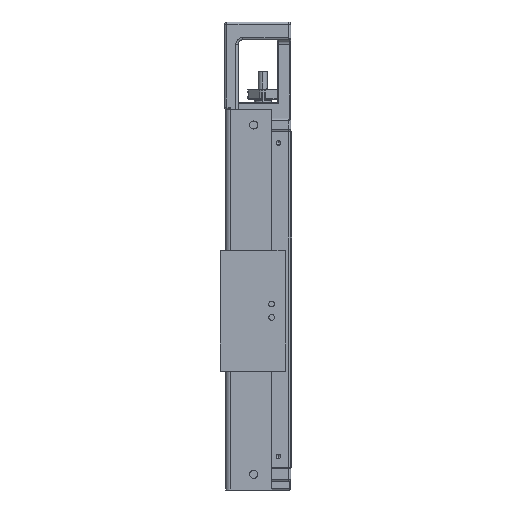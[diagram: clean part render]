
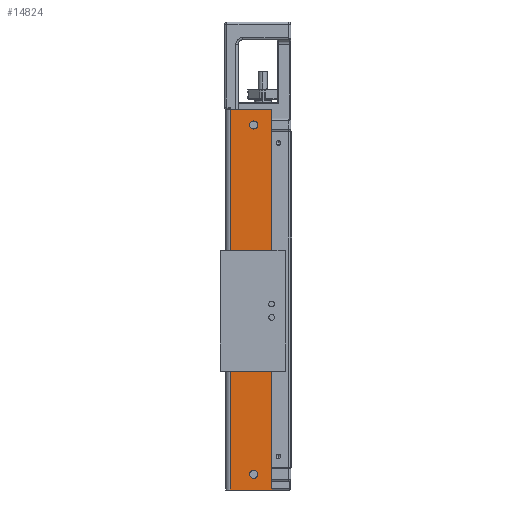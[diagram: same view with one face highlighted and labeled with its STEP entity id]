
A CAD part, left-side view. The second image highlights one B-rep face of the part: STEP entity #14824.
In plain terms, the highlighted planar face has unit normal (-1, 0, 0).
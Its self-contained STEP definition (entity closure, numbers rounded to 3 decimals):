
#156 = VECTOR ( 'NONE', #6029, 1000. ) ;
#1127 = AXIS2_PLACEMENT_3D ( 'NONE', #29862, #7828, #33558 ) ;
#1740 = VERTEX_POINT ( 'NONE', #17767 ) ;
#2267 = CARTESIAN_POINT ( 'NONE',  ( -32.5, 17., -153. ) ) ;
#2303 = CARTESIAN_POINT ( 'NONE',  ( -32.5, 12.5, -160. ) ) ;
#2793 = DIRECTION ( 'NONE',  ( 0., -1., 0. ) ) ;
#3849 = CARTESIAN_POINT ( 'NONE',  ( -32.5, 31.5, -106.95 ) ) ;
#5835 = VECTOR ( 'NONE', #10747, 1000. ) ;
#5996 = DIRECTION ( 'NONE',  ( 0., 0., 1. ) ) ;
#6029 = DIRECTION ( 'NONE',  ( 0., -1., 0. ) ) ;
#6105 = DIRECTION ( 'NONE',  ( 0., 0., 1. ) ) ;
#6299 = VERTEX_POINT ( 'NONE', #26776 ) ;
#6732 = LINE ( 'NONE', #17616, #26286 ) ;
#6940 = ORIENTED_EDGE ( 'NONE', *, *, #20662, .T. ) ;
#6975 = LINE ( 'NONE', #15498, #5835 ) ;
#7487 = AXIS2_PLACEMENT_3D ( 'NONE', #3849, #29606, #7550 ) ;
#7550 = DIRECTION ( 'NONE',  ( 0., 0., 1. ) ) ;
#7828 = DIRECTION ( 'NONE',  ( 1., 0., 0. ) ) ;
#8590 = EDGE_LOOP ( 'NONE', ( #31986, #39064 ) ) ;
#8747 = ORIENTED_EDGE ( 'NONE', *, *, #40770, .T. ) ;
#9230 = VERTEX_POINT ( 'NONE', #44501 ) ;
#9465 = FACE_BOUND ( 'NONE', #25323, .T. ) ;
#10747 = DIRECTION ( 'NONE',  ( 0., 0., 1. ) ) ;
#11386 = DIRECTION ( 'NONE',  ( 1., 0., 0. ) ) ;
#12237 = EDGE_CURVE ( 'NONE', #9230, #1740, #44409, .T. ) ;
#12509 = EDGE_CURVE ( 'NONE', #6299, #43089, #37521, .T. ) ;
#12748 = VERTEX_POINT ( 'NONE', #29645 ) ;
#13381 = ORIENTED_EDGE ( 'NONE', *, *, #17628, .F. ) ;
#14824 = ADVANCED_FACE ( 'NONE', ( #19263, #9465, #20438 ), #25886, .T. ) ;
#15498 = CARTESIAN_POINT ( 'NONE',  ( -32.5, 27.5, -52.95 ) ) ;
#17144 = AXIS2_PLACEMENT_3D ( 'NONE', #18464, #44149, #22174 ) ;
#17616 = CARTESIAN_POINT ( 'NONE',  ( -32.5, 28.5, 10. ) ) ;
#17628 = EDGE_CURVE ( 'NONE', #28503, #12748, #6975, .T. ) ;
#17767 = CARTESIAN_POINT ( 'NONE',  ( -32.5, 17., -154.8 ) ) ;
#18464 = CARTESIAN_POINT ( 'NONE',  ( -32.5, 17., 3. ) ) ;
#18985 = EDGE_CURVE ( 'NONE', #43089, #6299, #33912, .T. ) ;
#19263 = FACE_BOUND ( 'NONE', #8590, .T. ) ;
#20438 = FACE_OUTER_BOUND ( 'NONE', #29735, .T. ) ;
#20662 = EDGE_CURVE ( 'NONE', #1740, #9230, #38997, .T. ) ;
#21507 = ORIENTED_EDGE ( 'NONE', *, *, #12237, .T. ) ;
#21517 = CARTESIAN_POINT ( 'NONE',  ( -32.5, 17., 4.8 ) ) ;
#22174 = DIRECTION ( 'NONE',  ( 0., 0., 1. ) ) ;
#24216 = CARTESIAN_POINT ( 'NONE',  ( -32.5, 27.5, -160. ) ) ;
#25026 = VECTOR ( 'NONE', #6105, 1000. ) ;
#25323 = EDGE_LOOP ( 'NONE', ( #21507, #6940 ) ) ;
#25886 = PLANE ( 'NONE',  #7487 ) ;
#26286 = VECTOR ( 'NONE', #2793, 1000. ) ;
#26758 = EDGE_CURVE ( 'NONE', #12748, #47316, #6732, .T. ) ;
#26776 = CARTESIAN_POINT ( 'NONE',  ( -32.5, 17., 1.2 ) ) ;
#27806 = AXIS2_PLACEMENT_3D ( 'NONE', #33409, #11386, #37126 ) ;
#28011 = DIRECTION ( 'NONE',  ( 1., 0., 0. ) ) ;
#28503 = VERTEX_POINT ( 'NONE', #24216 ) ;
#29606 = DIRECTION ( 'NONE',  ( -1., 0., 0. ) ) ;
#29645 = CARTESIAN_POINT ( 'NONE',  ( -32.5, 27.5, 10. ) ) ;
#29735 = EDGE_LOOP ( 'NONE', ( #46851, #13381, #37421, #8747 ) ) ;
#29862 = CARTESIAN_POINT ( 'NONE',  ( -32.5, 17., -153. ) ) ;
#30019 = EDGE_CURVE ( 'NONE', #28503, #36416, #36993, .T. ) ;
#31986 = ORIENTED_EDGE ( 'NONE', *, *, #18985, .T. ) ;
#33409 = CARTESIAN_POINT ( 'NONE',  ( -32.5, 17., 3. ) ) ;
#33558 = DIRECTION ( 'NONE',  ( 0., 0., 1. ) ) ;
#33912 = CIRCLE ( 'NONE', #17144, 1.8 ) ;
#36126 = CARTESIAN_POINT ( 'NONE',  ( -32.5, 9., -160. ) ) ;
#36416 = VERTEX_POINT ( 'NONE', #36126 ) ;
#36993 = LINE ( 'NONE', #2303, #156 ) ;
#37126 = DIRECTION ( 'NONE',  ( 0., 0., 1. ) ) ;
#37421 = ORIENTED_EDGE ( 'NONE', *, *, #30019, .T. ) ;
#37521 = CIRCLE ( 'NONE', #27806, 1.8 ) ;
#38385 = CARTESIAN_POINT ( 'NONE',  ( -32.5, 9., 10. ) ) ;
#38997 = CIRCLE ( 'NONE', #1127, 1.8 ) ;
#39064 = ORIENTED_EDGE ( 'NONE', *, *, #12509, .T. ) ;
#40770 = EDGE_CURVE ( 'NONE', #36416, #47316, #44529, .T. ) ;
#40996 = AXIS2_PLACEMENT_3D ( 'NONE', #2267, #28011, #5996 ) ;
#42722 = CARTESIAN_POINT ( 'NONE',  ( -32.5, 9., -106.95 ) ) ;
#43089 = VERTEX_POINT ( 'NONE', #21517 ) ;
#44149 = DIRECTION ( 'NONE',  ( 1., 0., 0. ) ) ;
#44409 = CIRCLE ( 'NONE', #40996, 1.8 ) ;
#44501 = CARTESIAN_POINT ( 'NONE',  ( -32.5, 17., -151.2 ) ) ;
#44529 = LINE ( 'NONE', #42722, #25026 ) ;
#46851 = ORIENTED_EDGE ( 'NONE', *, *, #26758, .F. ) ;
#47316 = VERTEX_POINT ( 'NONE', #38385 ) ;
